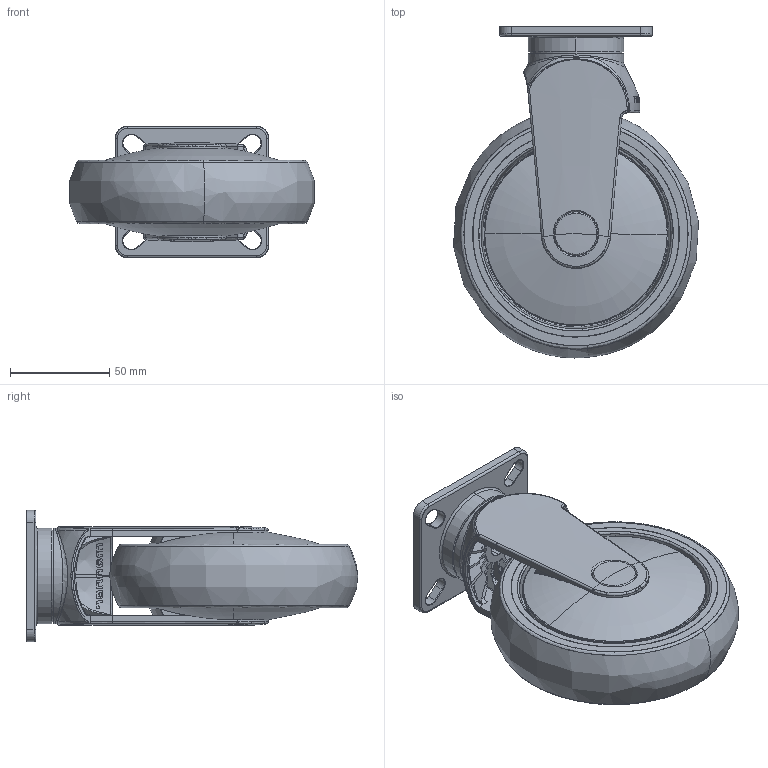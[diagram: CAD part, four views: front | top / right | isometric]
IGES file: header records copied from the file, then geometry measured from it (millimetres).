
Start section: SolidWorks IGES file using analytic representation for surfaces
Global section: file name: S:\Tyokansio\VL\301047_IGES.IGS; native system: SolidWorks 2011; preprocessor: SolidWorks 2011; author: VilleLa; date: 110622.142137; units: millimetre
Bounding box: 123.31 x 166.99 x 66 mm (x, y, z)
Surface area: 106525 mm2 (no closed solid volume)
Topology: 0 solids, 0 shells, 622 faces, 7025 edges, 7009 vertices
Faces by surface type: bspline 450, revolution 172
